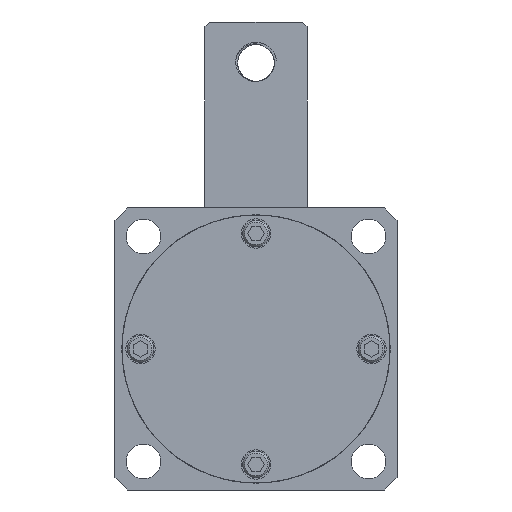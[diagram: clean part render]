
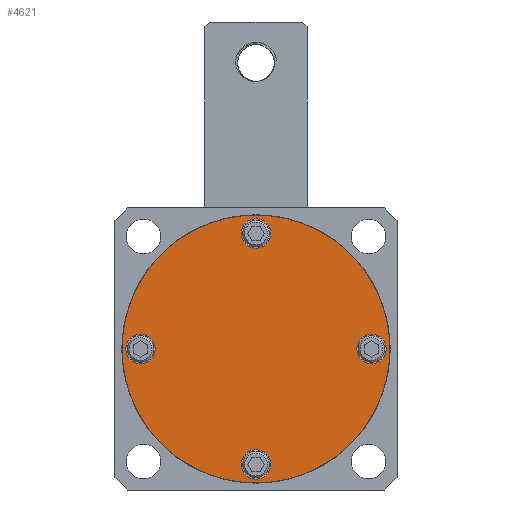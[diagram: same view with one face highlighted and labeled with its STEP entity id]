
A CAD part, front view. The second image highlights one B-rep face of the part: STEP entity #4621.
In plain terms, the highlighted planar face has unit normal (0, -1, 0) as drawn and (0, 0, 1) by its records, which use the part's own axes.
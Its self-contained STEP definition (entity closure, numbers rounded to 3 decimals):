
#181=PLANE('',#5040);
#255=FACE_BOUND('',#820,.T.);
#256=FACE_BOUND('',#821,.T.);
#257=FACE_BOUND('',#822,.T.);
#258=FACE_BOUND('',#823,.T.);
#343=CIRCLE('',#5041,32.85);
#344=CIRCLE('',#5042,32.85);
#345=CIRCLE('',#5043,3.6);
#346=CIRCLE('',#5044,3.6);
#347=CIRCLE('',#5045,3.6);
#348=CIRCLE('',#5046,3.6);
#349=CIRCLE('',#5047,3.6);
#350=CIRCLE('',#5048,3.6);
#351=CIRCLE('',#5049,3.6);
#352=CIRCLE('',#5050,3.6);
#536=FACE_OUTER_BOUND('',#819,.T.);
#819=EDGE_LOOP('',(#3512,#3513));
#820=EDGE_LOOP('',(#3514,#3515));
#821=EDGE_LOOP('',(#3516,#3517));
#822=EDGE_LOOP('',(#3518,#3519));
#823=EDGE_LOOP('',(#3520,#3521));
#1992=VERTEX_POINT('',#15616);
#1993=VERTEX_POINT('',#15617);
#1994=VERTEX_POINT('',#15620);
#1995=VERTEX_POINT('',#15621);
#1996=VERTEX_POINT('',#15624);
#1997=VERTEX_POINT('',#15625);
#1998=VERTEX_POINT('',#15628);
#1999=VERTEX_POINT('',#15629);
#2000=VERTEX_POINT('',#15632);
#2001=VERTEX_POINT('',#15633);
#2555=EDGE_CURVE('',#1992,#1993,#343,.T.);
#2556=EDGE_CURVE('',#1993,#1992,#344,.T.);
#2557=EDGE_CURVE('',#1994,#1995,#345,.T.);
#2558=EDGE_CURVE('',#1995,#1994,#346,.T.);
#2559=EDGE_CURVE('',#1996,#1997,#347,.T.);
#2560=EDGE_CURVE('',#1997,#1996,#348,.T.);
#2561=EDGE_CURVE('',#1998,#1999,#349,.T.);
#2562=EDGE_CURVE('',#1999,#1998,#350,.T.);
#2563=EDGE_CURVE('',#2000,#2001,#351,.T.);
#2564=EDGE_CURVE('',#2001,#2000,#352,.T.);
#3512=ORIENTED_EDGE('',*,*,#2555,.T.);
#3513=ORIENTED_EDGE('',*,*,#2556,.T.);
#3514=ORIENTED_EDGE('',*,*,#2557,.F.);
#3515=ORIENTED_EDGE('',*,*,#2558,.F.);
#3516=ORIENTED_EDGE('',*,*,#2559,.F.);
#3517=ORIENTED_EDGE('',*,*,#2560,.F.);
#3518=ORIENTED_EDGE('',*,*,#2561,.F.);
#3519=ORIENTED_EDGE('',*,*,#2562,.F.);
#3520=ORIENTED_EDGE('',*,*,#2563,.F.);
#3521=ORIENTED_EDGE('',*,*,#2564,.F.);
#4621=ADVANCED_FACE('',(#536,#255,#256,#257,#258),#181,.F.);
#5040=AXIS2_PLACEMENT_3D('',#15615,#5662,#5663);
#5041=AXIS2_PLACEMENT_3D('',#15618,#5664,#5665);
#5042=AXIS2_PLACEMENT_3D('',#15619,#5666,#5667);
#5043=AXIS2_PLACEMENT_3D('',#15622,#5668,#5669);
#5044=AXIS2_PLACEMENT_3D('',#15623,#5670,#5671);
#5045=AXIS2_PLACEMENT_3D('',#15626,#5672,#5673);
#5046=AXIS2_PLACEMENT_3D('',#15627,#5674,#5675);
#5047=AXIS2_PLACEMENT_3D('',#15630,#5676,#5677);
#5048=AXIS2_PLACEMENT_3D('',#15631,#5678,#5679);
#5049=AXIS2_PLACEMENT_3D('',#15634,#5680,#5681);
#5050=AXIS2_PLACEMENT_3D('',#15635,#5682,#5683);
#5662=DIRECTION('center_axis',(0.,0.,-1.));
#5663=DIRECTION('ref_axis',(0.,-1.,0.));
#5664=DIRECTION('center_axis',(0.,0.,1.));
#5665=DIRECTION('ref_axis',(0.,-1.,0.));
#5666=DIRECTION('center_axis',(0.,0.,1.));
#5667=DIRECTION('ref_axis',(0.,-1.,0.));
#5668=DIRECTION('center_axis',(0.,0.,1.));
#5669=DIRECTION('ref_axis',(1.,0.,0.));
#5670=DIRECTION('center_axis',(0.,0.,1.));
#5671=DIRECTION('ref_axis',(1.,0.,0.));
#5672=DIRECTION('center_axis',(0.,0.,1.));
#5673=DIRECTION('ref_axis',(0.,-1.,0.));
#5674=DIRECTION('center_axis',(0.,0.,1.));
#5675=DIRECTION('ref_axis',(0.,-1.,0.));
#5676=DIRECTION('center_axis',(0.,0.,1.));
#5677=DIRECTION('ref_axis',(-1.,0.,0.));
#5678=DIRECTION('center_axis',(0.,0.,1.));
#5679=DIRECTION('ref_axis',(-1.,0.,0.));
#5680=DIRECTION('center_axis',(0.,0.,1.));
#5681=DIRECTION('ref_axis',(0.,1.,0.));
#5682=DIRECTION('center_axis',(0.,0.,1.));
#5683=DIRECTION('ref_axis',(0.,1.,0.));
#15615=CARTESIAN_POINT('Origin',(0.,0.,0.));
#15616=CARTESIAN_POINT('',(0.,-32.85,0.));
#15617=CARTESIAN_POINT('',(0.,32.85,0.));
#15618=CARTESIAN_POINT('Origin',(0.,0.,0.));
#15619=CARTESIAN_POINT('Origin',(0.,0.,0.));
#15620=CARTESIAN_POINT('',(23.576,19.976,0.));
#15621=CARTESIAN_POINT('',(16.376,19.976,0.));
#15622=CARTESIAN_POINT('Origin',(19.976,19.976,0.));
#15623=CARTESIAN_POINT('Origin',(19.976,19.976,0.));
#15624=CARTESIAN_POINT('',(19.976,-23.576,0.));
#15625=CARTESIAN_POINT('',(19.976,-16.376,0.));
#15626=CARTESIAN_POINT('Origin',(19.976,-19.976,0.));
#15627=CARTESIAN_POINT('Origin',(19.976,-19.976,0.));
#15628=CARTESIAN_POINT('',(-23.576,-19.976,0.));
#15629=CARTESIAN_POINT('',(-16.376,-19.976,0.));
#15630=CARTESIAN_POINT('Origin',(-19.976,-19.976,0.));
#15631=CARTESIAN_POINT('Origin',(-19.976,-19.976,0.));
#15632=CARTESIAN_POINT('',(-19.976,23.576,0.));
#15633=CARTESIAN_POINT('',(-19.976,16.376,0.));
#15634=CARTESIAN_POINT('Origin',(-19.976,19.976,0.));
#15635=CARTESIAN_POINT('Origin',(-19.976,19.976,0.));
